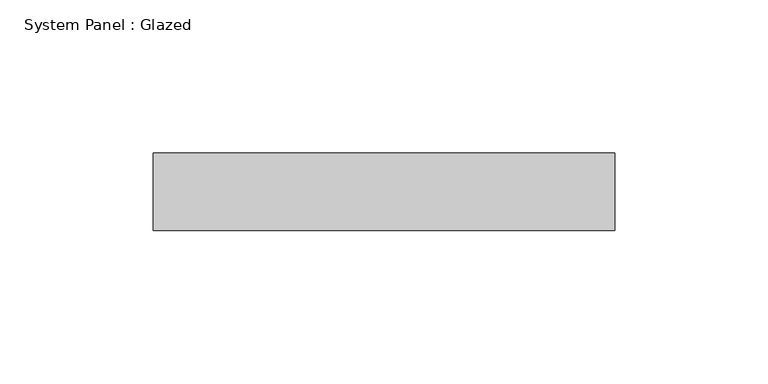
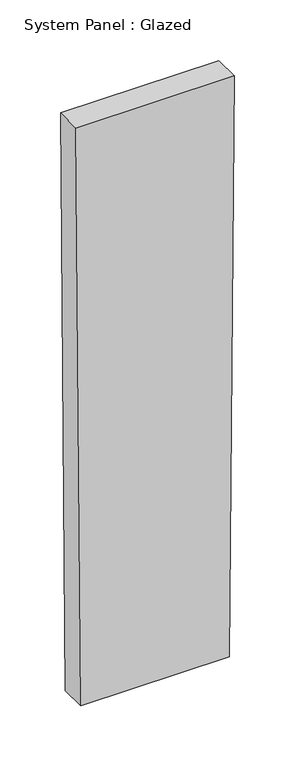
"""IFC4 building model written with IfcOpenShell, lengths in millimetres: plate geometry, System Panel : Glazed."""

from ifc_helpers import new_model, si_unit, frame, origin, place, context, project, spatial, polyline, outline, extrude, source, transform, mapped, element, save


def system_panel_glazed_5c131dfc(model_context):
    return source(origin(), model_context, "Body", "SweptSolid", [
        extrude(outline(polyline([(0.0, -70.7950935), (0.0, 70.7950935), (584.1804699, 75.4713939), (584.1804699, -75.4713939), (0.0, -70.7950935)])), frame((0.0, 19.05, 0.0), z_axis=(0.0, 1.0, 0.0), x_axis=(0.0, 0.0, 1.0)), (0.0, 0.0, 1.0), 25.4),
    ])


if __name__ == "__main__":
    model = new_model("IFC4")
    model_context = context("Model", 3, world=origin())
    ifc_project = project(units=[si_unit("LENGTHUNIT", "METRE", prefix="MILLI")], contexts=[model_context])
    site = spatial("IfcSite", under=ifc_project)
    building = spatial("IfcBuilding", under=site)
    placement = place(None, origin())
    system_panel_glazed_shape = system_panel_glazed_5c131dfc(model_context)
    element("IfcPlate", 1, ObjectType="System Panel : Glazed", at=placement, inside=building, context=model_context, shape_type="MappedRepresentation", body=[
        mapped(system_panel_glazed_shape, transform((0.0, 0.0, 0.0), x_axis=(1.0, 0.0, 0.0), y_axis=(0.0, 1.0, 0.0), z_axis=(0.0, 0.0, 1.0))),
    ])
    save(model, "model.ifc")
